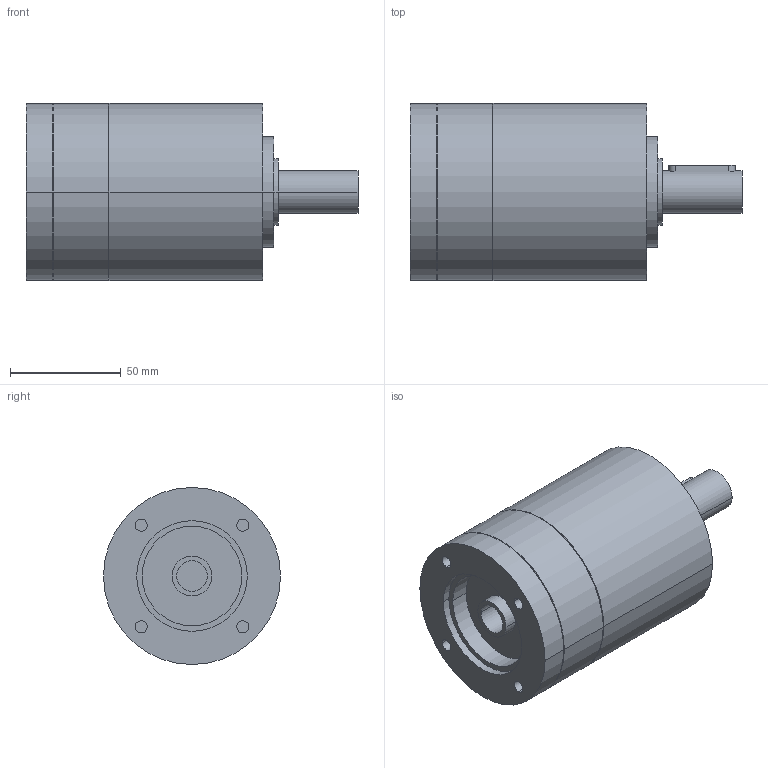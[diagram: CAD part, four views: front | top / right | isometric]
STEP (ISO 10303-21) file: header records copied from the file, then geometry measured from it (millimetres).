
FILE_DESCRIPTION(('CoCreate Modeling STEP Export'),'2;1');
FILE_NAME('GPR100_ig-3-4-5-6_19_B14_14_P10.stp','2014-08-26T10:07:08',(''),(''),'CoCreate Modeling STEP processor for AP214 (Solid Model)','CoCreate Modeling 16.00C 25-Feb-2009 (C) Parametric Technology GmbH','');
FILE_SCHEMA(('AUTOMOTIVE_DESIGN { 1 0 10303 214 1 1 1 1 }'));
Length unit declared in the file: millimetre
Products named in the file (2): GPR100_ig-3-4-5-6_19_B14_14_P10
Assembly tree (1 placements, depth 2):
  GPR100_ig-3-4-5-6_19_B14_14_P10
    GPR100_ig-3-4-5-6_19_B14_14_P10
Bounding box: 150 x 80 x 80 mm (x, y, z)
Volume: 532467.2 mm3; surface area: 46662.5 mm2
Topology: 1 solids, 1 shells, 80 faces, 203 edges, 145 vertices
Faces by surface type: cylinder 48, plane 26, cone 6
Entity records: 2036 total; most frequent: ORIENTED_EDGE 402, CARTESIAN_POINT 371, DIRECTION 264, EDGE_CURVE 201, VERTEX_POINT 145, AXIS2_PLACEMENT_3D 102, EDGE_LOOP 102, FACE_OUTER_BOUND 80
